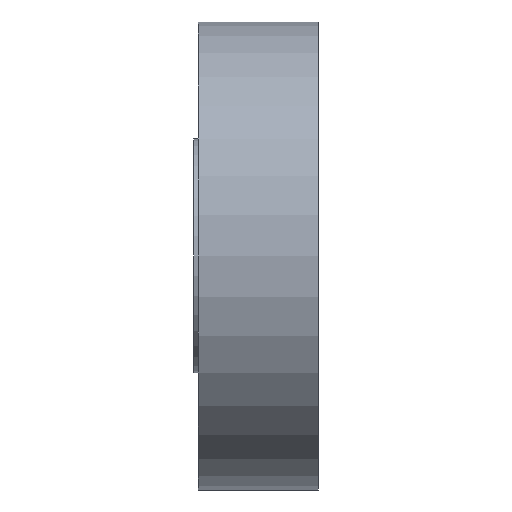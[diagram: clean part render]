
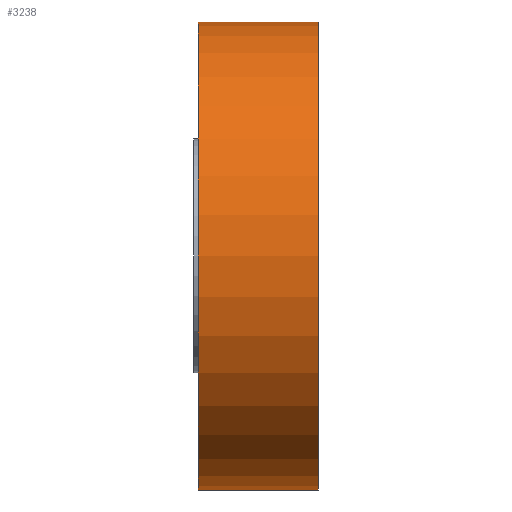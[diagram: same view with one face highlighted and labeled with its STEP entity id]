
A CAD part, left-side view. The second image highlights one B-rep face of the part: STEP entity #3238.
In plain terms, the highlighted cylindrical face has radius 150 mm (diameter 300 mm), a partial arc.
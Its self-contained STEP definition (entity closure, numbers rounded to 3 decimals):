
#159 = CIRCLE ( 'NONE', #13058, 150. ) ;
#439 = VECTOR ( 'NONE', #2526, 1000. ) ;
#726 = CYLINDRICAL_SURFACE ( 'NONE', #11958, 150. ) ;
#759 = DIRECTION ( 'NONE',  ( 0., 0., 1. ) ) ;
#1923 = EDGE_LOOP ( 'NONE', ( #13171, #16817, #9543, #14247 ) ) ;
#1989 = EDGE_CURVE ( 'NONE', #8262, #12185, #159, .T. ) ;
#2098 = DIRECTION ( 'NONE',  ( 0., 1., 0. ) ) ;
#2250 = CARTESIAN_POINT ( 'NONE',  ( 0., 80., 0. ) ) ;
#2526 = DIRECTION ( 'NONE',  ( 0., -1., 0. ) ) ;
#3238 = ADVANCED_FACE ( 'NONE', ( #12927 ), #726, .T. ) ;
#3373 = DIRECTION ( 'NONE',  ( 0., 0., 1. ) ) ;
#4623 = CARTESIAN_POINT ( 'NONE',  ( 0., 77., 0. ) ) ;
#4765 = LINE ( 'NONE', #6028, #11257 ) ;
#5574 = EDGE_CURVE ( 'NONE', #8262, #10294, #10877, .T. ) ;
#6028 = CARTESIAN_POINT ( 'NONE',  ( 0., 80., 150. ) ) ;
#6307 = DIRECTION ( 'NONE',  ( 0., -1., 0. ) ) ;
#7499 = EDGE_CURVE ( 'NONE', #12185, #13514, #4765, .T. ) ;
#7726 = DIRECTION ( 'NONE',  ( 0., 0., -1. ) ) ;
#8262 = VERTEX_POINT ( 'NONE', #11194 ) ;
#9529 = CARTESIAN_POINT ( 'NONE',  ( 0., 80., -150. ) ) ;
#9543 = ORIENTED_EDGE ( 'NONE', *, *, #5574, .T. ) ;
#10294 = VERTEX_POINT ( 'NONE', #15430 ) ;
#10877 = LINE ( 'NONE', #9529, #439 ) ;
#11194 = CARTESIAN_POINT ( 'NONE',  ( 0., 77., -150. ) ) ;
#11257 = VECTOR ( 'NONE', #11488, 1000. ) ;
#11488 = DIRECTION ( 'NONE',  ( 0., -1., 0. ) ) ;
#11958 = AXIS2_PLACEMENT_3D ( 'NONE', #2250, #6307, #7726 ) ;
#11982 = DIRECTION ( 'NONE',  ( 0., 1., 0. ) ) ;
#12185 = VERTEX_POINT ( 'NONE', #14830 ) ;
#12927 = FACE_OUTER_BOUND ( 'NONE', #1923, .T. ) ;
#13058 = AXIS2_PLACEMENT_3D ( 'NONE', #4623, #2098, #3373 ) ;
#13171 = ORIENTED_EDGE ( 'NONE', *, *, #7499, .F. ) ;
#13514 = VERTEX_POINT ( 'NONE', #13816 ) ;
#13816 = CARTESIAN_POINT ( 'NONE',  ( 0., 0., 150. ) ) ;
#14247 = ORIENTED_EDGE ( 'NONE', *, *, #14429, .T. ) ;
#14429 = EDGE_CURVE ( 'NONE', #10294, #13514, #14495, .T. ) ;
#14495 = CIRCLE ( 'NONE', #16244, 150. ) ;
#14830 = CARTESIAN_POINT ( 'NONE',  ( 0., 77., 150. ) ) ;
#15430 = CARTESIAN_POINT ( 'NONE',  ( 0., 0., -150. ) ) ;
#16028 = CARTESIAN_POINT ( 'NONE',  ( 0., 0., 0. ) ) ;
#16244 = AXIS2_PLACEMENT_3D ( 'NONE', #16028, #11982, #759 ) ;
#16817 = ORIENTED_EDGE ( 'NONE', *, *, #1989, .F. ) ;
